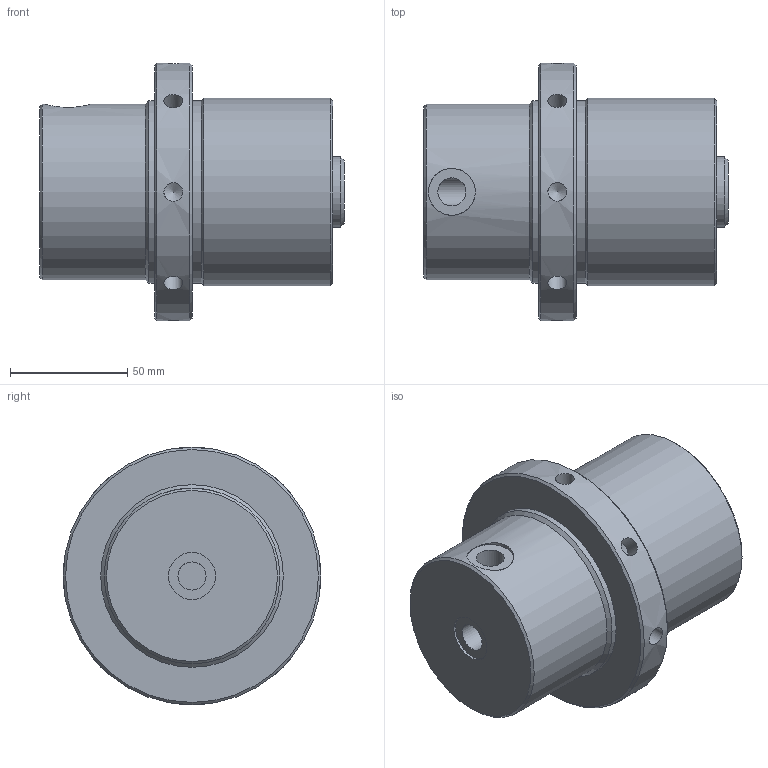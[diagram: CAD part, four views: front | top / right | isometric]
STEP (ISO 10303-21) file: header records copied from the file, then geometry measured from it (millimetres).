
FILE_DESCRIPTION( ( 'Unknown' ), '1' );
FILE_NAME( 'F:/JAKOB-STEP+IGES-Dateien/STEP-Dateien/ZSF/ZSF 4000.stp', 'Unknown', ( 'Unknown' ), ( 'Unknown' ), 'XStep 1.0', 'Unknown', ' ' );
FILE_SCHEMA( ( 'CONFIG_CONTROL_DESIGN' ) );
Length unit declared in the file: millimetre
Products named in the file (1): 1
Bounding box: 130 x 110 x 110 mm (x, y, z)
Volume: 647408.1 mm3; surface area: 57603.2 mm2
Topology: 1 solids, 1 shells, 44 faces, 109 edges, 70 vertices
Faces by surface type: cylinder 19, cone 17, plane 8
Full cylindrical faces by diameter (mm): 8 x8, 12 x2, 20 x2, 20.5 x1, 30 x1, 75 x1, 78 x2, 80 x1, 110 x1
Entity records: 1562 total; most frequent: CARTESIAN_POINT 755, DIRECTION 162, ORIENTED_EDGE 90, EDGE_LOOP 88, AXIS2_PLACEMENT_3D 81, FACE_OUTER_BOUND 63, VERTEX_POINT 54, EDGE_CURVE 45
